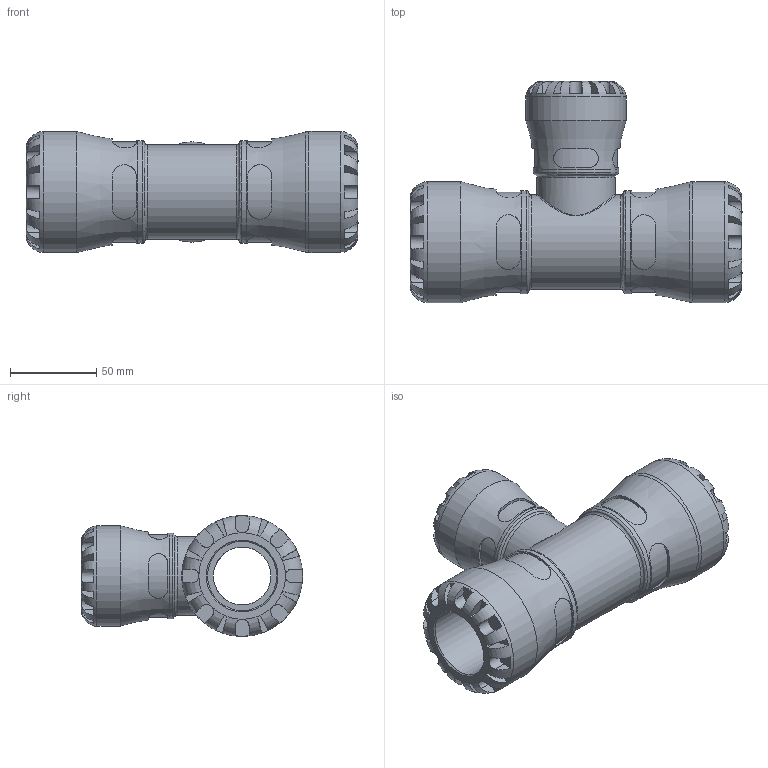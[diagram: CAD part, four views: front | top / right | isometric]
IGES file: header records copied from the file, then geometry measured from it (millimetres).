
Global section: file name: 103400040032_193400040032.ipt; native system: Autodesk Inventor 2015; preprocessor: unknown; author: KIM; date: 20170122.114102; units: millimetre
Bounding box: 192 x 128 x 70 mm (x, y, z)
Volume: 438655 mm3; surface area: 90097.6 mm2
Topology: 1 solids, 1 shells, 287 faces, 749 edges, 477 vertices
Faces by surface type: plane 174, revolution 68, cylinder 44, bspline 1
Full cylindrical faces by diameter (mm): 45.24 x1, 49.3 x1, 54.6 x1, 58 x1, 59.5 x2, 70 x2
